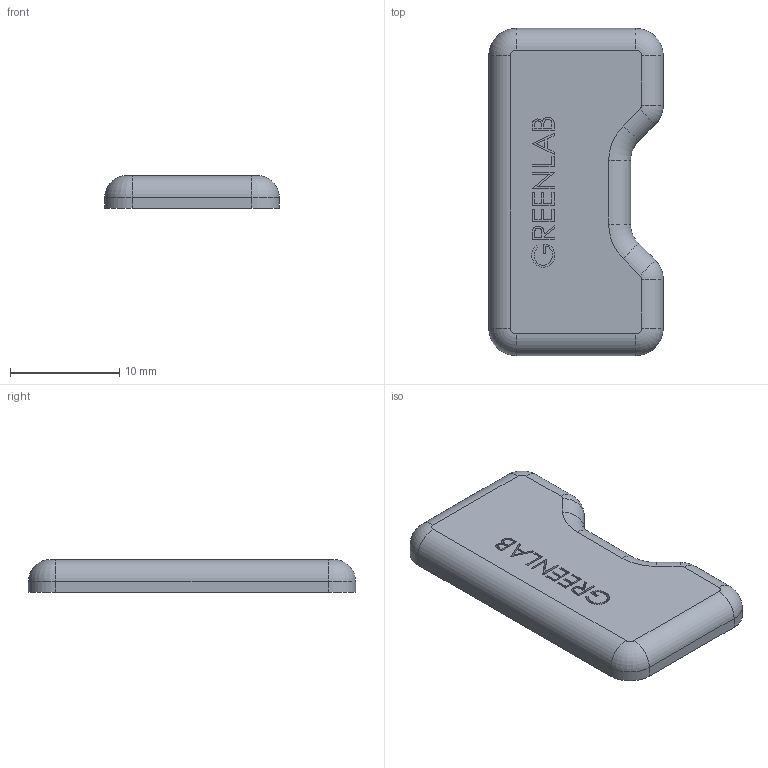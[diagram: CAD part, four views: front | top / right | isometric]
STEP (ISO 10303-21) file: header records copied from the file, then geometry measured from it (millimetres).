
FILE_DESCRIPTION (( 'STEP AP214' ), '1' );
FILE_NAME ('1.1002 Päätysuoja 16x30.STEP', '2025-09-03T08:52:56', ( '' ), ( '' ), 'SwSTEP 2.0', 'SolidWorks 2025', '' );
FILE_SCHEMA (( 'AUTOMOTIVE_DESIGN' ));
Length unit declared in the file: millimetre
Products named in the file (1): 1.1002 Päätysuoja 16x30
Bounding box: 16 x 30 x 3 mm (x, y, z)
Volume: 1247.5 mm3; surface area: 1115.6 mm2
Topology: 1 solids, 1 shells, 144 faces, 374 edges, 244 vertices
Faces by surface type: plane 97, bspline 23, cylinder 16, torus 8
Entity records: 5775 total; most frequent: CARTESIAN_POINT 2346, ORIENTED_EDGE 748, DIRECTION 612, EDGE_CURVE 374, VECTOR 288, LINE 288, VERTEX_POINT 244, AXIS2_PLACEMENT_3D 162
